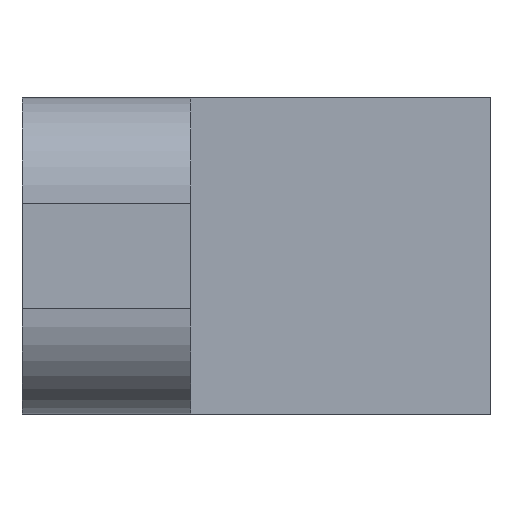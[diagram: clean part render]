
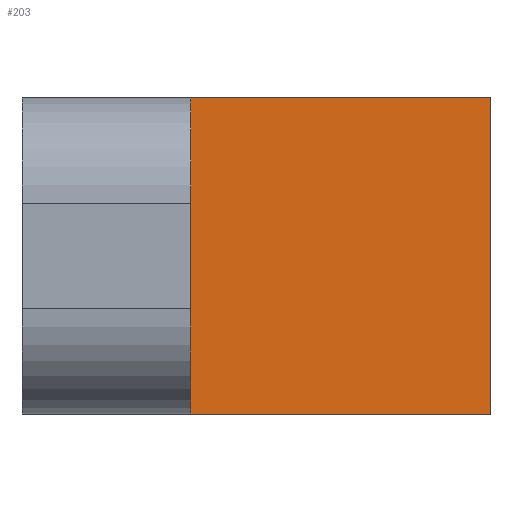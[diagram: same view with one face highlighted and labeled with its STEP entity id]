
A CAD part, left-side view. The second image highlights one B-rep face of the part: STEP entity #203.
In plain terms, the highlighted planar face has unit normal (-1, 0, 0).
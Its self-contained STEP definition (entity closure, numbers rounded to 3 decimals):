
#21 = LINE ( 'NONE', #169, #88 ) ;
#22 = CARTESIAN_POINT ( 'NONE',  ( 18., -22.2, 7.5 ) ) ;
#54 = CARTESIAN_POINT ( 'NONE',  ( 18., -22.2, 7.5 ) ) ;
#63 = FACE_OUTER_BOUND ( 'NONE', #208, .T. ) ;
#76 = LINE ( 'NONE', #22, #283 ) ;
#77 = EDGE_CURVE ( 'NONE', #416, #117, #76, .T. ) ;
#79 = CARTESIAN_POINT ( 'NONE',  ( 18., -22.2, 7.5 ) ) ;
#85 = DIRECTION ( 'NONE',  ( 0., -1., 0. ) ) ;
#87 = ORIENTED_EDGE ( 'NONE', *, *, #900, .F. ) ;
#88 = VECTOR ( 'NONE', #138, 1000. ) ;
#101 = DIRECTION ( 'NONE',  ( 1., 0., 0. ) ) ;
#117 = VERTEX_POINT ( 'NONE', #620 ) ;
#138 = DIRECTION ( 'NONE',  ( 0., 0., -1. ) ) ;
#163 = CARTESIAN_POINT ( 'NONE',  ( 18., -8., 7.5 ) ) ;
#169 = CARTESIAN_POINT ( 'NONE',  ( 18., -8., 7.5 ) ) ;
#203 = ADVANCED_FACE ( 'NONE', ( #63 ), #304, .F. ) ;
#208 = EDGE_LOOP ( 'NONE', ( #744, #252, #87, #421 ) ) ;
#249 = VERTEX_POINT ( 'NONE', #163 ) ;
#252 = ORIENTED_EDGE ( 'NONE', *, *, #77, .F. ) ;
#283 = VECTOR ( 'NONE', #297, 1000. ) ;
#297 = DIRECTION ( 'NONE',  ( 0., 0., -1. ) ) ;
#304 = PLANE ( 'NONE',  #842 ) ;
#306 = CARTESIAN_POINT ( 'NONE',  ( 18., -8., -7.5 ) ) ;
#327 = EDGE_CURVE ( 'NONE', #914, #117, #643, .T. ) ;
#404 = EDGE_CURVE ( 'NONE', #249, #914, #21, .T. ) ;
#416 = VERTEX_POINT ( 'NONE', #79 ) ;
#421 = ORIENTED_EDGE ( 'NONE', *, *, #404, .T. ) ;
#452 = CARTESIAN_POINT ( 'NONE',  ( 18., -22.2, 7.5 ) ) ;
#538 = VECTOR ( 'NONE', #85, 1000. ) ;
#575 = VECTOR ( 'NONE', #738, 1000. ) ;
#579 = DIRECTION ( 'NONE',  ( 0., 0., -1. ) ) ;
#585 = LINE ( 'NONE', #54, #575 ) ;
#620 = CARTESIAN_POINT ( 'NONE',  ( 18., -22.2, -7.5 ) ) ;
#643 = LINE ( 'NONE', #714, #538 ) ;
#714 = CARTESIAN_POINT ( 'NONE',  ( 18., -22.2, -7.5 ) ) ;
#738 = DIRECTION ( 'NONE',  ( 0., -1., 0. ) ) ;
#744 = ORIENTED_EDGE ( 'NONE', *, *, #327, .T. ) ;
#842 = AXIS2_PLACEMENT_3D ( 'NONE', #452, #101, #579 ) ;
#900 = EDGE_CURVE ( 'NONE', #249, #416, #585, .T. ) ;
#914 = VERTEX_POINT ( 'NONE', #306 ) ;
